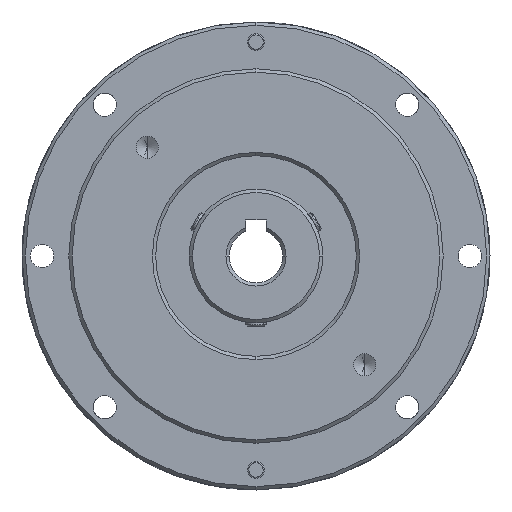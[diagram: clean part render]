
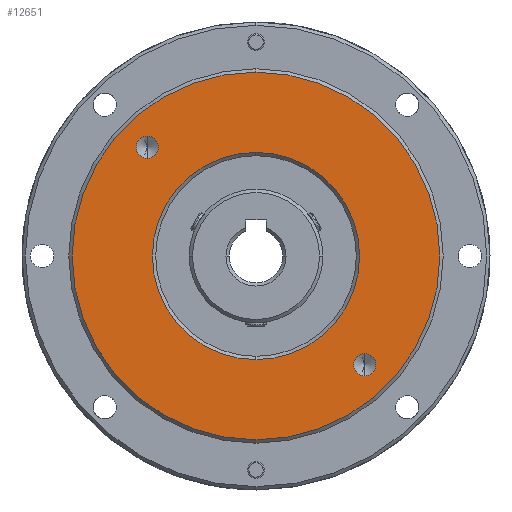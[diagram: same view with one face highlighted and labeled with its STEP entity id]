
A CAD part, left-side view. The second image highlights one B-rep face of the part: STEP entity #12651.
In plain terms, the highlighted planar face has unit normal (-1, 0, 0).
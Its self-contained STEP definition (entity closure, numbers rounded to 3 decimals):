
#130 = DIRECTION ( 'NONE',  ( 0., 0., 1. ) ) ;
#1250 = ORIENTED_EDGE ( 'NONE', *, *, #22094, .T. ) ;
#1689 = DIRECTION ( 'NONE',  ( 1., 0., 0. ) ) ;
#3381 = ORIENTED_EDGE ( 'NONE', *, *, #36989, .F. ) ;
#3634 = AXIS2_PLACEMENT_3D ( 'NONE', #31618, #8718, #130 ) ;
#4206 = DIRECTION ( 'NONE',  ( -1., 0., 0. ) ) ;
#4262 = CARTESIAN_POINT ( 'NONE',  ( -6.5, -16.263, -16.263 ) ) ;
#4507 = VERTEX_POINT ( 'NONE', #11449 ) ;
#5451 = AXIS2_PLACEMENT_3D ( 'NONE', #6611, #14385, #22477 ) ;
#5613 = FACE_BOUND ( 'NONE', #41402, .T. ) ;
#6583 = CIRCLE ( 'NONE', #34761, 15.5 ) ;
#6611 = CARTESIAN_POINT ( 'NONE',  ( -6.5, 0., 0. ) ) ;
#6825 = EDGE_LOOP ( 'NONE', ( #1250, #20000 ) ) ;
#7013 = VERTEX_POINT ( 'NONE', #25160 ) ;
#7448 = CARTESIAN_POINT ( 'NONE',  ( -6.5, 0., -15.5 ) ) ;
#7702 = AXIS2_PLACEMENT_3D ( 'NONE', #11477, #37497, #41288 ) ;
#8037 = CARTESIAN_POINT ( 'NONE',  ( -6.5, 0., 15.5 ) ) ;
#8718 = DIRECTION ( 'NONE',  ( -1., 0., 0. ) ) ;
#9093 = EDGE_LOOP ( 'NONE', ( #16755, #21072 ) ) ;
#10296 = CIRCLE ( 'NONE', #41736, 1.65 ) ;
#10519 = CARTESIAN_POINT ( 'NONE',  ( -6.5, -16.263, -17.913 ) ) ;
#11401 = CARTESIAN_POINT ( 'NONE',  ( -6.5, -16.263, -14.613 ) ) ;
#11449 = CARTESIAN_POINT ( 'NONE',  ( -6.5, 16.263, 14.613 ) ) ;
#11477 = CARTESIAN_POINT ( 'NONE',  ( -6.5, 16.263, 16.263 ) ) ;
#12522 = CARTESIAN_POINT ( 'NONE',  ( -6.5, -16.263, -16.263 ) ) ;
#12651 = ADVANCED_FACE ( 'NONE', ( #28797, #25033, #5613, #40431 ), #14386, .F. ) ;
#14385 = DIRECTION ( 'NONE',  ( -1., 0., 0. ) ) ;
#14386 = PLANE ( 'NONE',  #25243 ) ;
#14689 = EDGE_CURVE ( 'NONE', #42512, #39916, #40580, .T. ) ;
#16340 = DIRECTION ( 'NONE',  ( 0., 0., 1. ) ) ;
#16755 = ORIENTED_EDGE ( 'NONE', *, *, #14689, .T. ) ;
#16883 = CARTESIAN_POINT ( 'NONE',  ( -6.5, 0., -27.5 ) ) ;
#17289 = CARTESIAN_POINT ( 'NONE',  ( -6.5, 0., 0. ) ) ;
#19439 = CARTESIAN_POINT ( 'NONE',  ( -6.5, 0., 0. ) ) ;
#19581 = DIRECTION ( 'NONE',  ( 0., 0., 1. ) ) ;
#20000 = ORIENTED_EDGE ( 'NONE', *, *, #36004, .T. ) ;
#20523 = CIRCLE ( 'NONE', #3634, 1.65 ) ;
#20663 = VERTEX_POINT ( 'NONE', #10519 ) ;
#20692 = CIRCLE ( 'NONE', #5451, 27.5 ) ;
#21072 = ORIENTED_EDGE ( 'NONE', *, *, #45927, .T. ) ;
#21246 = CIRCLE ( 'NONE', #28485, 1.65 ) ;
#22094 = EDGE_CURVE ( 'NONE', #41198, #7013, #20692, .T. ) ;
#22477 = DIRECTION ( 'NONE',  ( 0., 0., -1. ) ) ;
#23513 = DIRECTION ( 'NONE',  ( 1., 0., 0. ) ) ;
#24507 = DIRECTION ( 'NONE',  ( -1., 0., 0. ) ) ;
#24782 = DIRECTION ( 'NONE',  ( 1., 0., 0. ) ) ;
#25033 = FACE_OUTER_BOUND ( 'NONE', #6825, .T. ) ;
#25160 = CARTESIAN_POINT ( 'NONE',  ( -6.5, 0., 27.5 ) ) ;
#25243 = AXIS2_PLACEMENT_3D ( 'NONE', #32817, #24782, #36881 ) ;
#26425 = ORIENTED_EDGE ( 'NONE', *, *, #34160, .F. ) ;
#28485 = AXIS2_PLACEMENT_3D ( 'NONE', #4262, #39370, #16340 ) ;
#28797 = FACE_BOUND ( 'NONE', #9093, .T. ) ;
#30499 = ORIENTED_EDGE ( 'NONE', *, *, #37474, .F. ) ;
#31618 = CARTESIAN_POINT ( 'NONE',  ( -6.5, 16.263, 16.263 ) ) ;
#32817 = CARTESIAN_POINT ( 'NONE',  ( -6.5, 0., 28. ) ) ;
#34160 = EDGE_CURVE ( 'NONE', #42143, #4507, #47147, .T. ) ;
#34761 = AXIS2_PLACEMENT_3D ( 'NONE', #19439, #23513, #46209 ) ;
#34952 = EDGE_CURVE ( 'NONE', #35599, #20663, #10296, .T. ) ;
#35599 = VERTEX_POINT ( 'NONE', #11401 ) ;
#36004 = EDGE_CURVE ( 'NONE', #7013, #41198, #47690, .T. ) ;
#36348 = DIRECTION ( 'NONE',  ( 0., 0., -1. ) ) ;
#36881 = DIRECTION ( 'NONE',  ( 0., 0., -1. ) ) ;
#36989 = EDGE_CURVE ( 'NONE', #20663, #35599, #21246, .T. ) ;
#37474 = EDGE_CURVE ( 'NONE', #4507, #42143, #20523, .T. ) ;
#37497 = DIRECTION ( 'NONE',  ( -1., 0., 0. ) ) ;
#38653 = EDGE_LOOP ( 'NONE', ( #38902, #3381 ) ) ;
#38902 = ORIENTED_EDGE ( 'NONE', *, *, #34952, .F. ) ;
#39370 = DIRECTION ( 'NONE',  ( -1., 0., 0. ) ) ;
#39916 = VERTEX_POINT ( 'NONE', #7448 ) ;
#40431 = FACE_BOUND ( 'NONE', #38653, .T. ) ;
#40580 = CIRCLE ( 'NONE', #46194, 15.5 ) ;
#41198 = VERTEX_POINT ( 'NONE', #16883 ) ;
#41288 = DIRECTION ( 'NONE',  ( 0., 0., 1. ) ) ;
#41402 = EDGE_LOOP ( 'NONE', ( #26425, #30499 ) ) ;
#41736 = AXIS2_PLACEMENT_3D ( 'NONE', #12522, #4206, #19581 ) ;
#42143 = VERTEX_POINT ( 'NONE', #44682 ) ;
#42512 = VERTEX_POINT ( 'NONE', #8037 ) ;
#44419 = CARTESIAN_POINT ( 'NONE',  ( -6.5, 0., 0. ) ) ;
#44682 = CARTESIAN_POINT ( 'NONE',  ( -6.5, 16.263, 17.913 ) ) ;
#45927 = EDGE_CURVE ( 'NONE', #39916, #42512, #6583, .T. ) ;
#46194 = AXIS2_PLACEMENT_3D ( 'NONE', #17289, #1689, #48104 ) ;
#46209 = DIRECTION ( 'NONE',  ( 0., 0., -1. ) ) ;
#47147 = CIRCLE ( 'NONE', #7702, 1.65 ) ;
#47690 = CIRCLE ( 'NONE', #49258, 27.5 ) ;
#48104 = DIRECTION ( 'NONE',  ( 0., 0., -1. ) ) ;
#49258 = AXIS2_PLACEMENT_3D ( 'NONE', #44419, #24507, #36348 ) ;
